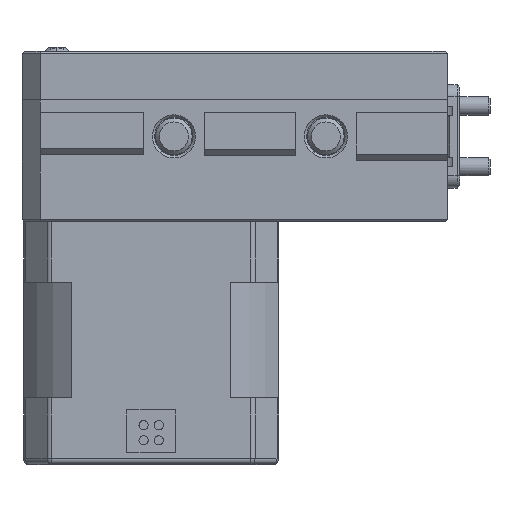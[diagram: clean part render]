
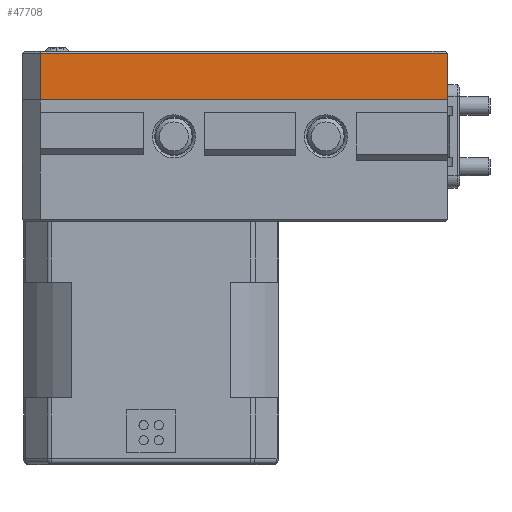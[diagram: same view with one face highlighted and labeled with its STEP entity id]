
A CAD part, left-side view. The second image highlights one B-rep face of the part: STEP entity #47708.
In plain terms, the highlighted planar face has unit normal (-1, 0, 0).
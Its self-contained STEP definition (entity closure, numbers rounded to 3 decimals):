
#46960 = VERTEX_POINT('',#46961);
#46961 = CARTESIAN_POINT('',(0.,0.,0.));
#46970 = PLANE('',#46971);
#46971 = AXIS2_PLACEMENT_3D('',#46972,#46973,#46974);
#46972 = CARTESIAN_POINT('',(21.25,35.,0.));
#46973 = DIRECTION('',(0.,0.,1.));
#46974 = DIRECTION('',(1.,0.,0.));
#46982 = PLANE('',#46983);
#46983 = AXIS2_PLACEMENT_3D('',#46984,#46985,#46986);
#46984 = CARTESIAN_POINT('',(0.,0.,0.));
#46985 = DIRECTION('',(0.,1.,0.));
#46986 = DIRECTION('',(1.,0.,0.));
#47270 = VERTEX_POINT('',#47271);
#47271 = CARTESIAN_POINT('',(0.,67.,0.));
#47285 = PLANE('',#47286);
#47286 = AXIS2_PLACEMENT_3D('',#47287,#47288,#47289);
#47287 = CARTESIAN_POINT('',(1.5,68.5,0.));
#47288 = DIRECTION('',(-0.707,0.707,0.));
#47289 = DIRECTION('',(0.,0.,1.));
#47297 = EDGE_CURVE('',#47270,#46960,#47298,.T.);
#47298 = SURFACE_CURVE('',#47299,(#47303,#47310),.PCURVE_S1.);
#47299 = LINE('',#47300,#47301);
#47300 = CARTESIAN_POINT('',(0.,70.,0.));
#47301 = VECTOR('',#47302,1.);
#47302 = DIRECTION('',(0.,-1.,0.));
#47303 = PCURVE('',#46970,#47304);
#47304 = DEFINITIONAL_REPRESENTATION('',(#47305),#47309);
#47305 = LINE('',#47306,#47307);
#47306 = CARTESIAN_POINT('',(-21.25,35.));
#47307 = VECTOR('',#47308,1.);
#47308 = DIRECTION('',(0.,-1.));
#47309 = ( GEOMETRIC_REPRESENTATION_CONTEXT(2) 
PARAMETRIC_REPRESENTATION_CONTEXT() REPRESENTATION_CONTEXT('2D SPACE',''
  ) );
#47310 = PCURVE('',#47311,#47316);
#47311 = PLANE('',#47312);
#47312 = AXIS2_PLACEMENT_3D('',#47313,#47314,#47315);
#47313 = CARTESIAN_POINT('',(0.,70.,0.));
#47314 = DIRECTION('',(1.,0.,0.));
#47315 = DIRECTION('',(0.,-1.,0.));
#47316 = DEFINITIONAL_REPRESENTATION('',(#47317),#47321);
#47317 = LINE('',#47318,#47319);
#47318 = CARTESIAN_POINT('',(0.,0.));
#47319 = VECTOR('',#47320,1.);
#47320 = DIRECTION('',(1.,0.));
#47321 = ( GEOMETRIC_REPRESENTATION_CONTEXT(2) 
PARAMETRIC_REPRESENTATION_CONTEXT() REPRESENTATION_CONTEXT('2D SPACE',''
  ) );
#47582 = EDGE_CURVE('',#46960,#47583,#47585,.T.);
#47583 = VERTEX_POINT('',#47584);
#47584 = CARTESIAN_POINT('',(0.,0.,7.6));
#47585 = SURFACE_CURVE('',#47586,(#47590,#47597),.PCURVE_S1.);
#47586 = LINE('',#47587,#47588);
#47587 = CARTESIAN_POINT('',(0.,0.,0.));
#47588 = VECTOR('',#47589,1.);
#47589 = DIRECTION('',(0.,0.,1.));
#47590 = PCURVE('',#46982,#47591);
#47591 = DEFINITIONAL_REPRESENTATION('',(#47592),#47596);
#47592 = LINE('',#47593,#47594);
#47593 = CARTESIAN_POINT('',(0.,0.));
#47594 = VECTOR('',#47595,1.);
#47595 = DIRECTION('',(0.,-1.));
#47596 = ( GEOMETRIC_REPRESENTATION_CONTEXT(2) 
PARAMETRIC_REPRESENTATION_CONTEXT() REPRESENTATION_CONTEXT('2D SPACE',''
  ) );
#47597 = PCURVE('',#47311,#47598);
#47598 = DEFINITIONAL_REPRESENTATION('',(#47599),#47603);
#47599 = LINE('',#47600,#47601);
#47600 = CARTESIAN_POINT('',(70.,0.));
#47601 = VECTOR('',#47602,1.);
#47602 = DIRECTION('',(0.,-1.));
#47603 = ( GEOMETRIC_REPRESENTATION_CONTEXT(2) 
PARAMETRIC_REPRESENTATION_CONTEXT() REPRESENTATION_CONTEXT('2D SPACE',''
  ) );
#47708 = ADVANCED_FACE('',(#47709),#47311,.F.);
#47709 = FACE_BOUND('',#47710,.F.);
#47710 = EDGE_LOOP('',(#47711,#47734,#47760,#47761));
#47711 = ORIENTED_EDGE('',*,*,#47712,.T.);
#47712 = EDGE_CURVE('',#47270,#47713,#47715,.T.);
#47713 = VERTEX_POINT('',#47714);
#47714 = CARTESIAN_POINT('',(0.,67.,7.6));
#47715 = SURFACE_CURVE('',#47716,(#47720,#47727),.PCURVE_S1.);
#47716 = LINE('',#47717,#47718);
#47717 = CARTESIAN_POINT('',(0.,67.,0.));
#47718 = VECTOR('',#47719,1.);
#47719 = DIRECTION('',(0.,0.,1.));
#47720 = PCURVE('',#47311,#47721);
#47721 = DEFINITIONAL_REPRESENTATION('',(#47722),#47726);
#47722 = LINE('',#47723,#47724);
#47723 = CARTESIAN_POINT('',(3.,0.));
#47724 = VECTOR('',#47725,1.);
#47725 = DIRECTION('',(0.,-1.));
#47726 = ( GEOMETRIC_REPRESENTATION_CONTEXT(2) 
PARAMETRIC_REPRESENTATION_CONTEXT() REPRESENTATION_CONTEXT('2D SPACE',''
  ) );
#47727 = PCURVE('',#47285,#47728);
#47728 = DEFINITIONAL_REPRESENTATION('',(#47729),#47733);
#47729 = LINE('',#47730,#47731);
#47730 = CARTESIAN_POINT('',(0.,-2.121));
#47731 = VECTOR('',#47732,1.);
#47732 = DIRECTION('',(1.,0.));
#47733 = ( GEOMETRIC_REPRESENTATION_CONTEXT(2) 
PARAMETRIC_REPRESENTATION_CONTEXT() REPRESENTATION_CONTEXT('2D SPACE',''
  ) );
#47734 = ORIENTED_EDGE('',*,*,#47735,.T.);
#47735 = EDGE_CURVE('',#47713,#47583,#47736,.T.);
#47736 = SURFACE_CURVE('',#47737,(#47741,#47748),.PCURVE_S1.);
#47737 = LINE('',#47738,#47739);
#47738 = CARTESIAN_POINT('',(0.,67.,7.6));
#47739 = VECTOR('',#47740,1.);
#47740 = DIRECTION('',(0.,-1.,0.));
#47741 = PCURVE('',#47311,#47742);
#47742 = DEFINITIONAL_REPRESENTATION('',(#47743),#47747);
#47743 = LINE('',#47744,#47745);
#47744 = CARTESIAN_POINT('',(3.,-7.6));
#47745 = VECTOR('',#47746,1.);
#47746 = DIRECTION('',(1.,0.));
#47747 = ( GEOMETRIC_REPRESENTATION_CONTEXT(2) 
PARAMETRIC_REPRESENTATION_CONTEXT() REPRESENTATION_CONTEXT('2D SPACE',''
  ) );
#47748 = PCURVE('',#47749,#47754);
#47749 = PLANE('',#47750);
#47750 = AXIS2_PLACEMENT_3D('',#47751,#47752,#47753);
#47751 = CARTESIAN_POINT('',(0.2,67.,7.8));
#47752 = DIRECTION('',(0.707,0.,-0.707));
#47753 = DIRECTION('',(0.,1.,0.));
#47754 = DEFINITIONAL_REPRESENTATION('',(#47755),#47759);
#47755 = LINE('',#47756,#47757);
#47756 = CARTESIAN_POINT('',(-0.,-0.283));
#47757 = VECTOR('',#47758,1.);
#47758 = DIRECTION('',(-1.,0.));
#47759 = ( GEOMETRIC_REPRESENTATION_CONTEXT(2) 
PARAMETRIC_REPRESENTATION_CONTEXT() REPRESENTATION_CONTEXT('2D SPACE',''
  ) );
#47760 = ORIENTED_EDGE('',*,*,#47582,.F.);
#47761 = ORIENTED_EDGE('',*,*,#47297,.F.);
